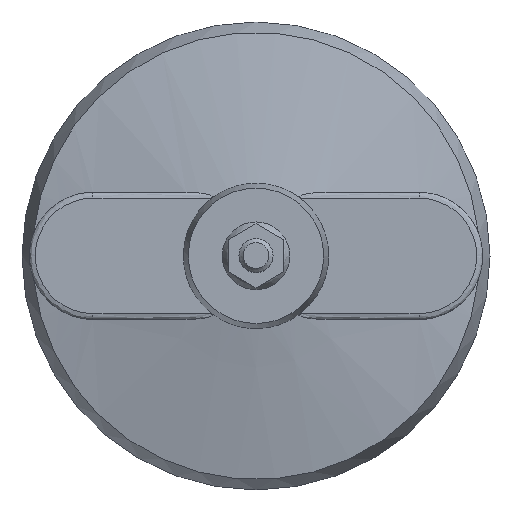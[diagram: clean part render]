
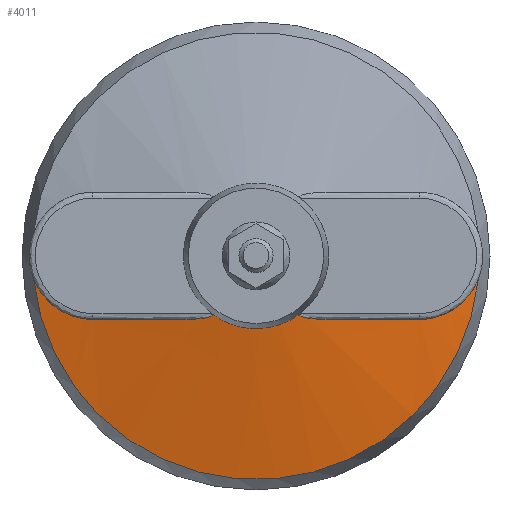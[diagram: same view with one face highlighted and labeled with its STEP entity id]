
A CAD part, top view. The second image highlights one B-rep face of the part: STEP entity #4011.
In plain terms, the highlighted free-form (B-spline) face has degree [1, 2] with [2, 5] control points.
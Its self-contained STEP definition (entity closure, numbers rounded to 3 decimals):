
#2522=CARTESIAN_POINT('',(10.371,-13.524,13.5));
#2523=VERTEX_POINT('',#2522);
#2530=CARTESIAN_POINT('',(-10.371,-13.524,13.5));
#2531=VERTEX_POINT('',#2530);
#2532=CARTESIAN_POINT('',(-10.371,-13.524,13.5));
#2533=CARTESIAN_POINT('',(-7.94,-15.389,13.5));
#2534=CARTESIAN_POINT('',(-5.012,-16.289,13.5));
#2535=CARTESIAN_POINT('',(3.393,-18.875,13.5));
#2536=CARTESIAN_POINT('',(10.371,-13.524,13.5));
#2537=(BOUNDED_CURVE()B_SPLINE_CURVE(2,(#2532,#2533,#2534,#2535,#2536),.UNSPECIFIED.,.F.,.U.)B_SPLINE_CURVE_WITH_KNOTS((3,2,3),(1.104,1.206,1.46),.UNSPECIFIED.)CURVE()GEOMETRIC_REPRESENTATION_ITEM()RATIONAL_B_SPLINE_CURVE((0.868,0.917,1.,0.793,0.797))REPRESENTATION_ITEM(''));
#2538=EDGE_CURVE('',#2531,#2523,#2537,.T.);
#3892=CARTESIAN_POINT('',(-52.142,-5.335,6.6));
#3893=VERTEX_POINT('',#3892);
#3905=CARTESIAN_POINT('',(52.143,-5.336,6.6));
#3906=VERTEX_POINT('',#3905);
#3907=CARTESIAN_POINT('',(0.,0.,6.6));
#3908=DIRECTION('',(-0.995,-0.102,0.));
#3909=DIRECTION('',(0.,0.,1.));
#3910=AXIS2_PLACEMENT_3D('',#3907,#3909,#3908);
#3911=CIRCLE('',#3910,52.415);
#3912=EDGE_CURVE('',#3893,#3906,#3911,.T.);
#3929=CARTESIAN_POINT('',(-52.142,-5.335,6.6));
#3930=CARTESIAN_POINT('',(-47.325,-52.415,6.6));
#3931=CARTESIAN_POINT('',(0.,-52.415,6.6));
#3932=CARTESIAN_POINT('',(47.325,-52.415,6.6));
#3933=CARTESIAN_POINT('',(52.142,-5.335,6.6));
#3934=CARTESIAN_POINT('',(0.,0.,16.825));
#3935=CARTESIAN_POINT('',(0.,0.,16.825));
#3936=CARTESIAN_POINT('',(0.,0.,16.825));
#3937=CARTESIAN_POINT('',(0.,0.,16.825));
#3938=CARTESIAN_POINT('',(0.,0.,16.825));
#3939=(BOUNDED_SURFACE()B_SPLINE_SURFACE(1,2,((#3929,#3930,#3931,#3932,#3933),(#3934,#3935,#3936,#3937,#3938)),.UNSPECIFIED.,.F.,.F.,.U.)B_SPLINE_SURFACE_WITH_KNOTS((2,2),(3,2,3),(0.,1.),(0.,0.5,1.),.UNSPECIFIED.)GEOMETRIC_REPRESENTATION_ITEM()RATIONAL_B_SPLINE_SURFACE(((1.,0.742,1.,0.742,1.),(1.,0.742,1.,0.742,1.)))REPRESENTATION_ITEM('')SURFACE());
#3940=CARTESIAN_POINT('',(38.226,-14.904,8.821));
#3941=VERTEX_POINT('',#3940);
#3942=CARTESIAN_POINT('',(16.412,-14.904,12.5));
#3943=VERTEX_POINT('',#3942);
#3944=CARTESIAN_POINT('',(38.226,-14.904,8.821));
#3945=CARTESIAN_POINT('',(24.064,-14.904,11.395));
#3946=CARTESIAN_POINT('',(16.412,-14.904,12.5));
#3947=(BOUNDED_CURVE()B_SPLINE_CURVE(2,(#3944,#3945,#3946),.HYPERBOLIC_ARC.,.F.,.U.)B_SPLINE_CURVE_WITH_KNOTS((3,3),(0.,0.567),.UNSPECIFIED.)CURVE()GEOMETRIC_REPRESENTATION_ITEM()RATIONAL_B_SPLINE_CURVE((1.393,1.823,2.101))REPRESENTATION_ITEM(''));
#3948=EDGE_CURVE('',#3941,#3943,#3947,.T.);
#3949=ORIENTED_EDGE('E242',*,*,#3948,.F.);
#3950=CARTESIAN_POINT('',(52.143,-5.336,6.6));
#3951=CARTESIAN_POINT('',(51.905,-5.958,6.634));
#3952=CARTESIAN_POINT('',(50.353,-9.32,6.856));
#3953=CARTESIAN_POINT('',(47.595,-11.965,7.259));
#3954=CARTESIAN_POINT('',(43.553,-14.006,7.902));
#3955=CARTESIAN_POINT('',(41.312,-14.725,8.271));
#3956=CARTESIAN_POINT('',(38.997,-14.904,8.681));
#3957=CARTESIAN_POINT('',(38.226,-14.904,8.821));
#3958=B_SPLINE_CURVE_WITH_KNOTS('',3,(#3950,#3951,#3952,#3953,#3954,#3955,#3956,#3957),.UNSPECIFIED.,.F.,.U.,(4,1,2,1,4),(0.187,0.333,1.,1.35,1.525),.UNSPECIFIED.);
#3959=EDGE_CURVE('',#3906,#3941,#3958,.T.);
#3960=ORIENTED_EDGE('E243',*,*,#3959,.F.);
#3961=ORIENTED_EDGE('E243',*,*,#3912,.F.);
#3962=CARTESIAN_POINT('',(-38.226,-14.904,8.821));
#3963=VERTEX_POINT('',#3962);
#3964=CARTESIAN_POINT('',(-38.226,-14.904,8.821));
#3965=CARTESIAN_POINT('',(-39.927,-14.904,8.512));
#3966=CARTESIAN_POINT('',(-45.047,-14.031,7.635));
#3967=CARTESIAN_POINT('',(-49.265,-10.601,7.015));
#3968=CARTESIAN_POINT('',(-51.472,-6.884,6.696));
#3969=CARTESIAN_POINT('',(-51.84,-6.123,6.643));
#3970=CARTESIAN_POINT('',(-52.142,-5.335,6.6));
#3971=B_SPLINE_CURVE_WITH_KNOTS('',3,(#3964,#3965,#3966,#3967,#3968,#3969,#3970),.UNSPECIFIED.,.F.,.U.,(4,1,2,4),(0.,0.333,1.,1.161),.UNSPECIFIED.);
#3972=EDGE_CURVE('',#3963,#3893,#3971,.T.);
#3973=ORIENTED_EDGE('E240',*,*,#3972,.F.);
#3974=CARTESIAN_POINT('',(-16.412,-14.904,12.5));
#3975=VERTEX_POINT('',#3974);
#3976=CARTESIAN_POINT('',(-16.412,-14.904,12.5));
#3977=CARTESIAN_POINT('',(-24.064,-14.904,11.395));
#3978=CARTESIAN_POINT('',(-38.226,-14.904,8.821));
#3979=(BOUNDED_CURVE()B_SPLINE_CURVE(2,(#3976,#3977,#3978),.HYPERBOLIC_ARC.,.F.,.U.)B_SPLINE_CURVE_WITH_KNOTS((3,3),(0.433,1.),.UNSPECIFIED.)CURVE()GEOMETRIC_REPRESENTATION_ITEM()RATIONAL_B_SPLINE_CURVE((2.101,1.823,1.393))REPRESENTATION_ITEM(''));
#3980=EDGE_CURVE('',#3975,#3963,#3979,.T.);
#3981=ORIENTED_EDGE('E280',*,*,#3980,.F.);
#3982=CARTESIAN_POINT('',(-16.412,-14.904,12.5));
#3983=CARTESIAN_POINT('',(-14.963,-14.904,12.709));
#3984=CARTESIAN_POINT('',(-12.295,-14.787,13.077));
#3985=CARTESIAN_POINT('',(-10.661,-14.249,13.353));
#3986=CARTESIAN_POINT('',(-10.171,-14.071,13.438));
#3987=CARTESIAN_POINT('',(-10.177,-13.775,13.484));
#3988=CARTESIAN_POINT('',(-10.205,-13.701,13.492));
#3989=CARTESIAN_POINT('',(-10.255,-13.627,13.498));
#3990=CARTESIAN_POINT('',(-10.329,-13.553,13.501));
#3991=CARTESIAN_POINT('',(-10.371,-13.524,13.5));
#3992=B_SPLINE_CURVE_WITH_KNOTS('',3,(#3982,#3983,#3984,#3985,#3986,#3987,#3988,#3989,#3990,#3991),.UNSPECIFIED.,.F.,.U.,(4,2,2,2,4),(0.,1.,1.157,1.18,1.21),.UNSPECIFIED.);
#3993=EDGE_CURVE('',#3975,#2531,#3992,.T.);
#3994=ORIENTED_EDGE('E273',*,*,#3993,.T.);
#3995=ORIENTED_EDGE('E273',*,*,#2538,.T.);
#3996=CARTESIAN_POINT('',(16.412,-14.904,12.5));
#3997=CARTESIAN_POINT('',(14.963,-14.904,12.709));
#3998=CARTESIAN_POINT('',(12.295,-14.787,13.077));
#3999=CARTESIAN_POINT('',(10.661,-14.249,13.353));
#4000=CARTESIAN_POINT('',(10.171,-14.071,13.438));
#4001=CARTESIAN_POINT('',(10.177,-13.775,13.484));
#4002=CARTESIAN_POINT('',(10.205,-13.701,13.492));
#4003=CARTESIAN_POINT('',(10.255,-13.627,13.498));
#4004=CARTESIAN_POINT('',(10.329,-13.553,13.501));
#4005=CARTESIAN_POINT('',(10.371,-13.524,13.5));
#4006=B_SPLINE_CURVE_WITH_KNOTS('',3,(#3996,#3997,#3998,#3999,#4000,#4001,#4002,#4003,#4004,#4005),.UNSPECIFIED.,.F.,.U.,(4,2,2,2,4),(0.,1.,1.157,1.18,1.21),.UNSPECIFIED.);
#4007=EDGE_CURVE('',#3943,#2523,#4006,.T.);
#4008=ORIENTED_EDGE('E270',*,*,#4007,.F.);
#4009=EDGE_LOOP('',(#3949,#3960,#3961,#3973,#3981,#3994,#3995,#4008));
#4010=FACE_OUTER_BOUND('',#4009,.F.);
#4011=ADVANCED_FACE('F376',(#4010),#3939,.F.);
